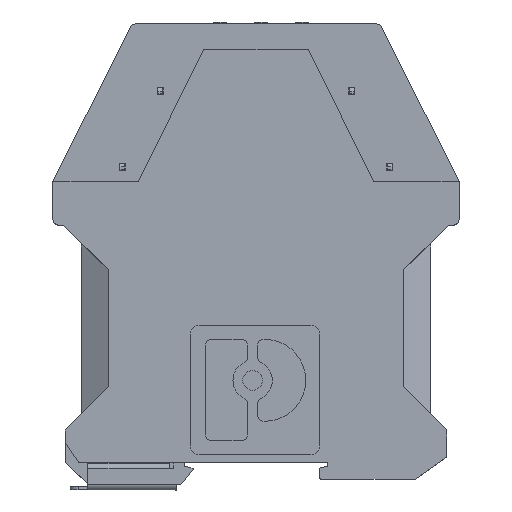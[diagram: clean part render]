
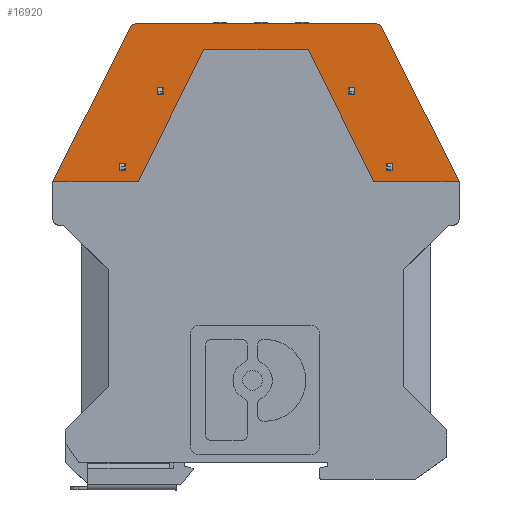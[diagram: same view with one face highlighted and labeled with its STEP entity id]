
A CAD part, top view. The second image highlights one B-rep face of the part: STEP entity #16920.
In plain terms, the highlighted planar face has unit normal (0, 0, 1).
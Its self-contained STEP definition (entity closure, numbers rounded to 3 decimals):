
#10233=CARTESIAN_POINT('',(-29.372,113.5,8.8));
#10234=DIRECTION('',(0.,0.,1.));
#10235=DIRECTION('',(0.,1.,0.));
#10236=AXIS2_PLACEMENT_3D('',#10233,#10234,#10235);
#10241=DIRECTION('',(-1.,0.,0.));
#10242=VECTOR('',#10241,58.744);
#10243=CARTESIAN_POINT('',(29.372,115.,8.8));
#10244=LINE('',#10243,#10242);
#10248=CARTESIAN_POINT('',(29.372,113.5,8.8));
#10249=DIRECTION('',(0.,0.,1.));
#10250=DIRECTION('',(0.895,0.446,0.));
#10251=AXIS2_PLACEMENT_3D('',#10248,#10249,#10250);
#10256=DIRECTION('',(-0.446,0.895,0.));
#10257=VECTOR('',#10256,42.094);
#10258=CARTESIAN_POINT('',(49.5,76.5,8.8));
#10259=LINE('',#10258,#10257);
#10263=DIRECTION('',(0.446,-0.895,0.));
#10264=VECTOR('',#10263,35.978);
#10265=CARTESIAN_POINT('',(12.7,108.7,8.8));
#10266=LINE('',#10265,#10264);
#10270=DIRECTION('',(0.446,0.895,0.));
#10271=VECTOR('',#10270,35.978);
#10272=CARTESIAN_POINT('',(-28.75,76.5,
8.8));
#10273=LINE('',#10272,#10271);
#10277=DIRECTION('',(1.,0.,0.));
#10278=VECTOR('',#10277,20.75);
#10279=CARTESIAN_POINT('',(-49.5,76.5,
8.8));
#10280=LINE('',#10279,#10278);
#10284=DIRECTION('',(-0.446,-0.895,0.));
#10285=VECTOR('',#10284,42.094);
#10286=CARTESIAN_POINT('',(-30.714,114.169,
8.8));
#10287=LINE('',#10286,#10285);
#10291=DIRECTION('',(0.,-1.,0.));
#10292=VECTOR('',#10291,1.7);
#10293=CARTESIAN_POINT('',(-31.7,81.,
8.8));
#10294=LINE('',#10293,#10292);
#10298=DIRECTION('',(1.,0.,0.));
#10299=VECTOR('',#10298,1.6);
#10300=CARTESIAN_POINT('',(-33.3,81.,
8.8));
#10301=LINE('',#10300,#10299);
#10305=DIRECTION('',(0.,1.,0.));
#10306=VECTOR('',#10305,1.7);
#10307=CARTESIAN_POINT('',(-33.3,79.3,
8.8));
#10308=LINE('',#10307,#10306);
#10312=DIRECTION('',(-1.,0.,0.));
#10313=VECTOR('',#10312,1.6);
#10314=CARTESIAN_POINT('',(-31.7,79.3,
8.8));
#10315=LINE('',#10314,#10313);
#10319=DIRECTION('',(0.,1.,0.));
#10320=VECTOR('',#10319,1.7);
#10321=CARTESIAN_POINT('',(22.5,97.8,8.8));
#10322=LINE('',#10321,#10320);
#10326=DIRECTION('',(-1.,0.,0.));
#10327=VECTOR('',#10326,1.6);
#10328=CARTESIAN_POINT('',(24.1,97.8,8.8));
#10329=LINE('',#10328,#10327);
#10333=DIRECTION('',(0.,-1.,0.));
#10334=VECTOR('',#10333,1.7);
#10335=CARTESIAN_POINT('',(24.1,99.5,8.8));
#10336=LINE('',#10335,#10334);
#10340=DIRECTION('',(1.,0.,0.));
#10341=VECTOR('',#10340,1.6);
#10342=CARTESIAN_POINT('',(22.5,99.5,8.8));
#10343=LINE('',#10342,#10341);
#10347=DIRECTION('',(0.,-1.,0.));
#10348=VECTOR('',#10347,1.7);
#10349=CARTESIAN_POINT('',(-22.5,99.5,8.8));
#10350=LINE('',#10349,#10348);
#10354=DIRECTION('',(1.,0.,0.));
#10355=VECTOR('',#10354,1.6);
#10356=CARTESIAN_POINT('',(-24.1,99.5,8.8));
#10357=LINE('',#10356,#10355);
#10361=DIRECTION('',(0.,1.,0.));
#10362=VECTOR('',#10361,1.7);
#10363=CARTESIAN_POINT('',(-24.1,97.8,8.8));
#10364=LINE('',#10363,#10362);
#10368=DIRECTION('',(-1.,0.,0.));
#10369=VECTOR('',#10368,1.6);
#10370=CARTESIAN_POINT('',(-22.5,97.8,8.8));
#10371=LINE('',#10370,#10369);
#10375=DIRECTION('',(0.,1.,0.));
#10376=VECTOR('',#10375,1.7);
#10377=CARTESIAN_POINT('',(31.7,79.3,8.8));
#10378=LINE('',#10377,#10376);
#10382=DIRECTION('',(-1.,0.,0.));
#10383=VECTOR('',#10382,1.6);
#10384=CARTESIAN_POINT('',(33.3,79.3,8.8));
#10385=LINE('',#10384,#10383);
#10389=DIRECTION('',(0.,-1.,0.));
#10390=VECTOR('',#10389,1.7);
#10391=CARTESIAN_POINT('',(33.3,81.,8.8));
#10392=LINE('',#10391,#10390);
#10396=DIRECTION('',(1.,0.,0.));
#10397=VECTOR('',#10396,1.6);
#10398=CARTESIAN_POINT('',(31.7,81.,8.8));
#10399=LINE('',#10398,#10397);
#11111=DIRECTION('',(-1.,0.,0.));
#11112=VECTOR('',#11111,20.75);
#11113=CARTESIAN_POINT('',(49.5,76.5,8.8));
#11114=LINE('',#11113,#11112);
#11167=DIRECTION('',(-1.,0.,0.));
#11168=VECTOR('',#11167,25.4);
#11169=CARTESIAN_POINT('',(12.7,108.7,8.8));
#11170=LINE('',#11169,#11168);
#15591=CARTESIAN_POINT('',(-33.3,79.3,
8.8));
#15592=VERTEX_POINT('',#15591);
#15593=CARTESIAN_POINT('',(-31.7,79.3,
8.8));
#15594=VERTEX_POINT('',#15593);
#15641=CARTESIAN_POINT('',(-31.7,81.,
8.8));
#15642=VERTEX_POINT('',#15641);
#15679=CARTESIAN_POINT('',(22.5,97.8,8.8));
#15680=VERTEX_POINT('',#15679);
#15681=CARTESIAN_POINT('',(24.1,97.8,8.8));
#15682=VERTEX_POINT('',#15681);
#15699=CARTESIAN_POINT('',(-24.1,97.8,8.8));
#15700=VERTEX_POINT('',#15699);
#15701=CARTESIAN_POINT('',(-22.5,97.8,8.8));
#15702=VERTEX_POINT('',#15701);
#15897=CARTESIAN_POINT('',(31.7,81.,8.8));
#15898=VERTEX_POINT('',#15897);
#15899=CARTESIAN_POINT('',(31.7,79.3,8.8));
#15900=VERTEX_POINT('',#15899);
#15909=CARTESIAN_POINT('',(-29.372,115.,8.8));
#15910=CARTESIAN_POINT('',(-30.714,114.169,
8.8));
#15911=VERTEX_POINT('',#15909);
#15912=VERTEX_POINT('',#15910);
#15933=CARTESIAN_POINT('',(-24.1,99.5,8.8));
#15934=VERTEX_POINT('',#15933);
#15937=CARTESIAN_POINT('',(-22.5,99.5,8.8));
#15938=VERTEX_POINT('',#15937);
#16017=CARTESIAN_POINT('',(24.1,99.5,8.8));
#16018=VERTEX_POINT('',#16017);
#16019=CARTESIAN_POINT('',(22.5,99.5,8.8));
#16020=VERTEX_POINT('',#16019);
#16043=CARTESIAN_POINT('',(33.3,81.,8.8));
#16044=VERTEX_POINT('',#16043);
#16179=CARTESIAN_POINT('',(-28.75,76.5,
8.8));
#16180=CARTESIAN_POINT('',(-12.7,108.7,
8.8));
#16181=VERTEX_POINT('',#16179);
#16182=VERTEX_POINT('',#16180);
#16249=CARTESIAN_POINT('',(28.75,76.5,8.8));
#16251=VERTEX_POINT('',#16249);
#16261=CARTESIAN_POINT('',(49.5,76.5,8.8));
#16262=VERTEX_POINT('',#16261);
#16265=CARTESIAN_POINT('',(-33.3,81.,
8.8));
#16266=VERTEX_POINT('',#16265);
#16267=CARTESIAN_POINT('',(-49.5,76.5,
8.8));
#16268=VERTEX_POINT('',#16267);
#16269=CARTESIAN_POINT('',(12.7,108.7,8.8));
#16270=VERTEX_POINT('',#16269);
#16271=CARTESIAN_POINT('',(30.714,114.169,8.8));
#16272=VERTEX_POINT('',#16271);
#16273=CARTESIAN_POINT('',(29.372,115.,8.8));
#16274=VERTEX_POINT('',#16273);
#16275=CARTESIAN_POINT('',(33.3,79.3,8.8));
#16276=VERTEX_POINT('',#16275);
#16854=CARTESIAN_POINT('',(29.71,111.793,8.8));
#16855=DIRECTION('',(0.,0.,-1.));
#16856=DIRECTION('',(-1.,0.,0.));
#16857=AXIS2_PLACEMENT_3D('',#16854,#16855,#16856);
#16858=PLANE('',#16857);
#16860=ORIENTED_EDGE('',*,*,#16859,.F.);
#16862=ORIENTED_EDGE('',*,*,#16861,.F.);
#16864=ORIENTED_EDGE('',*,*,#16863,.F.);
#16866=ORIENTED_EDGE('',*,*,#16865,.F.);
#16868=ORIENTED_EDGE('',*,*,#16867,.T.);
#16870=ORIENTED_EDGE('',*,*,#16869,.F.);
#16872=ORIENTED_EDGE('',*,*,#16871,.T.);
#16874=ORIENTED_EDGE('',*,*,#16873,.F.);
#16876=ORIENTED_EDGE('',*,*,#16875,.F.);
#16877=ORIENTED_EDGE('',*,*,#16838,.F.);
#16878=EDGE_LOOP('',(#16860,#16862,#16864,#16866,#16868,#16870,#16872,#16874,
#16876,#16877));
#16879=FACE_OUTER_BOUND('',#16878,.F.);
#16881=ORIENTED_EDGE('',*,*,#16880,.F.);
#16883=ORIENTED_EDGE('',*,*,#16882,.F.);
#16885=ORIENTED_EDGE('',*,*,#16884,.F.);
#16887=ORIENTED_EDGE('',*,*,#16886,.F.);
#16888=EDGE_LOOP('',(#16881,#16883,#16885,#16887));
#16889=FACE_BOUND('',#16888,.F.);
#16891=ORIENTED_EDGE('',*,*,#16890,.F.);
#16893=ORIENTED_EDGE('',*,*,#16892,.F.);
#16895=ORIENTED_EDGE('',*,*,#16894,.F.);
#16897=ORIENTED_EDGE('',*,*,#16896,.F.);
#16898=EDGE_LOOP('',(#16891,#16893,#16895,#16897));
#16899=FACE_BOUND('',#16898,.F.);
#16901=ORIENTED_EDGE('',*,*,#16900,.F.);
#16903=ORIENTED_EDGE('',*,*,#16902,.F.);
#16905=ORIENTED_EDGE('',*,*,#16904,.F.);
#16907=ORIENTED_EDGE('',*,*,#16906,.F.);
#16908=EDGE_LOOP('',(#16901,#16903,#16905,#16907));
#16909=FACE_BOUND('',#16908,.F.);
#16911=ORIENTED_EDGE('',*,*,#16910,.F.);
#16913=ORIENTED_EDGE('',*,*,#16912,.F.);
#16915=ORIENTED_EDGE('',*,*,#16914,.F.);
#16917=ORIENTED_EDGE('',*,*,#16916,.F.);
#16918=EDGE_LOOP('',(#16911,#16913,#16915,#16917));
#16919=FACE_BOUND('',#16918,.F.);
#16920=ADVANCED_FACE('',(#16879,#16889,#16899,#16909,#16919),#16858,.F.);
#10237=CIRCLE('',#10236,1.5);
#10252=CIRCLE('',#10251,1.5);
#16838=EDGE_CURVE('',#15912,#16268,#10287,.T.);
#16859=EDGE_CURVE('',#15911,#15912,#10237,.T.);
#16861=EDGE_CURVE('',#16274,#15911,#10244,.T.);
#16863=EDGE_CURVE('',#16272,#16274,#10252,.T.);
#16865=EDGE_CURVE('',#16262,#16272,#10259,.T.);
#16867=EDGE_CURVE('',#16262,#16251,#11114,.T.);
#16869=EDGE_CURVE('',#16270,#16251,#10266,.T.);
#16871=EDGE_CURVE('',#16270,#16182,#11170,.T.);
#16873=EDGE_CURVE('',#16181,#16182,#10273,.T.);
#16875=EDGE_CURVE('',#16268,#16181,#10280,.T.);
#16880=EDGE_CURVE('',#15642,#15594,#10294,.T.);
#16882=EDGE_CURVE('',#16266,#15642,#10301,.T.);
#16884=EDGE_CURVE('',#15592,#16266,#10308,.T.);
#16886=EDGE_CURVE('',#15594,#15592,#10315,.T.);
#16890=EDGE_CURVE('',#15680,#16020,#10322,.T.);
#16892=EDGE_CURVE('',#15682,#15680,#10329,.T.);
#16894=EDGE_CURVE('',#16018,#15682,#10336,.T.);
#16896=EDGE_CURVE('',#16020,#16018,#10343,.T.);
#16900=EDGE_CURVE('',#15938,#15702,#10350,.T.);
#16902=EDGE_CURVE('',#15934,#15938,#10357,.T.);
#16904=EDGE_CURVE('',#15700,#15934,#10364,.T.);
#16906=EDGE_CURVE('',#15702,#15700,#10371,.T.);
#16910=EDGE_CURVE('',#15900,#15898,#10378,.T.);
#16912=EDGE_CURVE('',#16276,#15900,#10385,.T.);
#16914=EDGE_CURVE('',#16044,#16276,#10392,.T.);
#16916=EDGE_CURVE('',#15898,#16044,#10399,.T.);
